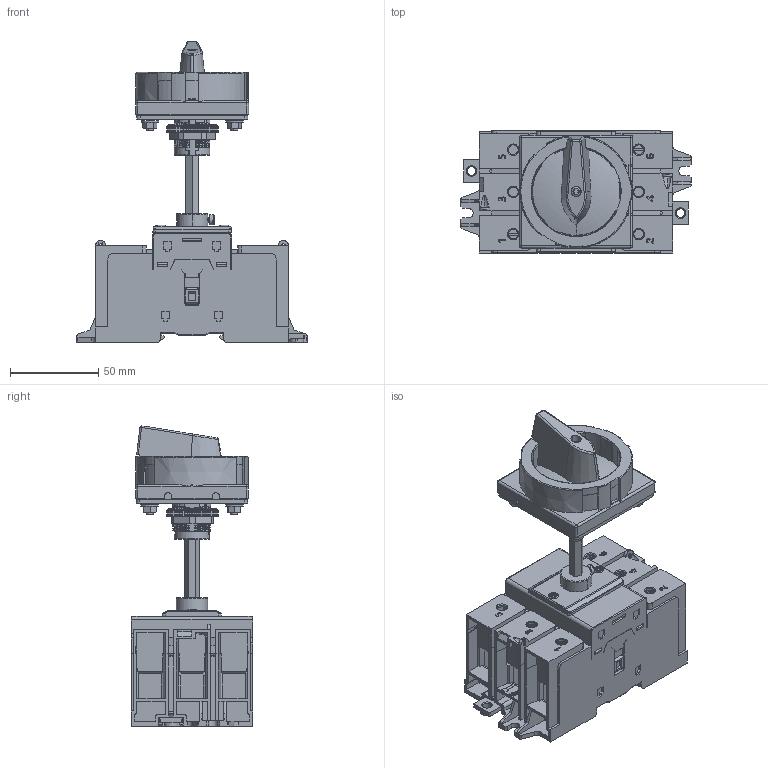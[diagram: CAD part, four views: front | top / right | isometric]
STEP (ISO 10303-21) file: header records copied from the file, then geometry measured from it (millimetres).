
FILE_DESCRIPTION (( 'STEP AP203' ), '1' );
FILE_NAME ('NF2-125DO.STEP', '2024-03-01T06:00:04', ( 'wzjh' ), ( '' ), 'SwSTEP 2.0', 'SolidWorks 2023', '' );
FILE_SCHEMA (( 'CONFIG_CONTROL_DESIGN' ));
Products named in the file (1): NF2-125DO
Bounding box: 130.6 x 69.1 x 170.23 mm (x, y, z)
Volume: 365528.3 mm3; surface area: 130595.8 mm2
Topology: 6 solids, 34 shells, 3517 faces, 9988 edges, 6488 vertices
Faces by surface type: plane 2291, cylinder 681, bspline 308, cone 139, torus 75, sphere 23
Entity records: 173121 total; most frequent: CARTESIAN_POINT 84914, ORIENTED_EDGE 19944, DIRECTION 16141, EDGE_CURVE 9972, LINE 6873, VECTOR 6873, VERTEX_POINT 6488, AXIS2_PLACEMENT_3D 4634
